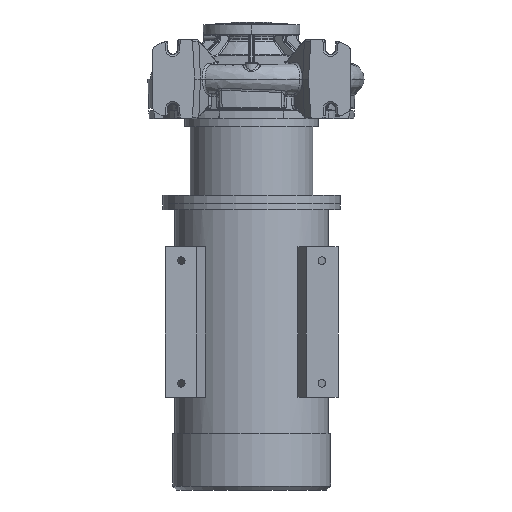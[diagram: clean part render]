
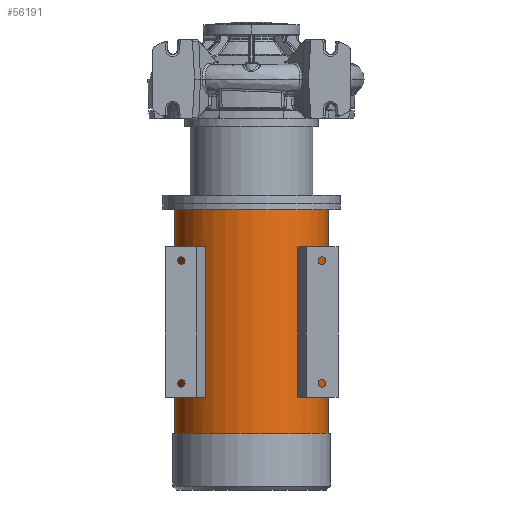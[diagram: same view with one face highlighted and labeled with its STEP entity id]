
A CAD part, front view. The second image highlights one B-rep face of the part: STEP entity #56191.
In plain terms, the highlighted cylindrical face has radius 195 mm (diameter 390 mm), a partial arc.
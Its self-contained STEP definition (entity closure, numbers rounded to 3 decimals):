
#1046 = VECTOR ( 'NONE', #79538, 1000. ) ;
#1199 = CIRCLE ( 'NONE', #43387, 195. ) ;
#2497 = CARTESIAN_POINT ( 'NONE',  ( -117.445, -155.665, -1040.8 ) ) ;
#3600 = CARTESIAN_POINT ( 'NONE',  ( -195., 0., -330.8 ) ) ;
#4566 = DIRECTION ( 'NONE',  ( 0., 0., -1. ) ) ;
#5418 = DIRECTION ( 'NONE',  ( -1., 0., 0. ) ) ;
#5986 = LINE ( 'NONE', #60938, #107345 ) ;
#7484 = CARTESIAN_POINT ( 'NONE',  ( 0., 0., -330.8 ) ) ;
#7755 = EDGE_CURVE ( 'NONE', #65892, #64055, #1199, .T. ) ;
#8278 = EDGE_CURVE ( 'NONE', #41030, #108985, #35257, .T. ) ;
#9463 = CARTESIAN_POINT ( 'NONE',  ( 0., 0., -805.3 ) ) ;
#14122 = ORIENTED_EDGE ( 'NONE', *, *, #18589, .F. ) ;
#14168 = VERTEX_POINT ( 'NONE', #34604 ) ;
#14631 = VERTEX_POINT ( 'NONE', #94495 ) ;
#15960 = VERTEX_POINT ( 'NONE', #73765 ) ;
#16619 = VERTEX_POINT ( 'NONE', #83887 ) ;
#17181 = ORIENTED_EDGE ( 'NONE', *, *, #20589, .T. ) ;
#18589 = EDGE_CURVE ( 'NONE', #14168, #14631, #25116, .T. ) ;
#19361 = DIRECTION ( 'NONE',  ( 0., 0., 1. ) ) ;
#20048 = AXIS2_PLACEMENT_3D ( 'NONE', #46166, #27829, #63833 ) ;
#20589 = EDGE_CURVE ( 'NONE', #64055, #14631, #5986, .T. ) ;
#20860 = CARTESIAN_POINT ( 'NONE',  ( 117.445, -155.665, -1040.8 ) ) ;
#21091 = ORIENTED_EDGE ( 'NONE', *, *, #40343, .T. ) ;
#24291 = CARTESIAN_POINT ( 'NONE',  ( 0., 0., -425.3 ) ) ;
#24720 = AXIS2_PLACEMENT_3D ( 'NONE', #9463, #79936, #27417 ) ;
#25116 = CIRCLE ( 'NONE', #88551, 195. ) ;
#27012 = CIRCLE ( 'NONE', #50921, 195. ) ;
#27417 = DIRECTION ( 'NONE',  ( -1., 0., 0. ) ) ;
#27829 = DIRECTION ( 'NONE',  ( 0., 0., -1. ) ) ;
#29805 = DIRECTION ( 'NONE',  ( 0., 0., -1. ) ) ;
#32016 = FACE_BOUND ( 'NONE', #96318, .T. ) ;
#32133 = CARTESIAN_POINT ( 'NONE',  ( 0., 0., -1040.8 ) ) ;
#32301 = AXIS2_PLACEMENT_3D ( 'NONE', #38608, #29805, #99524 ) ;
#33873 = CARTESIAN_POINT ( 'NONE',  ( 131.492, -143.996, -805.3 ) ) ;
#34596 = DIRECTION ( 'NONE',  ( 0., 0., -1. ) ) ;
#34604 = CARTESIAN_POINT ( 'NONE',  ( 195., 0., -896.8 ) ) ;
#35257 = LINE ( 'NONE', #61547, #1046 ) ;
#35402 = EDGE_CURVE ( 'NONE', #88926, #49295, #27012, .T. ) ;
#38608 = CARTESIAN_POINT ( 'NONE',  ( 0., 0., -805.3 ) ) ;
#40275 = FACE_OUTER_BOUND ( 'NONE', #63240, .T. ) ;
#40343 = EDGE_CURVE ( 'NONE', #45888, #108985, #62020, .T. ) ;
#40435 = DIRECTION ( 'NONE',  ( 0., 0., -1. ) ) ;
#41030 = VERTEX_POINT ( 'NONE', #86384 ) ;
#42894 = DIRECTION ( 'NONE',  ( 0., 0., -1. ) ) ;
#43387 = AXIS2_PLACEMENT_3D ( 'NONE', #7484, #34596, #113432 ) ;
#44671 = ORIENTED_EDGE ( 'NONE', *, *, #107089, .T. ) ;
#45195 = EDGE_CURVE ( 'NONE', #45888, #16619, #103681, .T. ) ;
#45888 = VERTEX_POINT ( 'NONE', #101455 ) ;
#46166 = CARTESIAN_POINT ( 'NONE',  ( 0., 0., -425.3 ) ) ;
#47064 = CYLINDRICAL_SURFACE ( 'NONE', #96044, 195. ) ;
#47702 = CARTESIAN_POINT ( 'NONE',  ( 117.445, -155.665, -425.3 ) ) ;
#49295 = VERTEX_POINT ( 'NONE', #105704 ) ;
#50921 = AXIS2_PLACEMENT_3D ( 'NONE', #24291, #69118, #67957 ) ;
#51641 = ORIENTED_EDGE ( 'NONE', *, *, #99382, .T. ) ;
#55106 = ORIENTED_EDGE ( 'NONE', *, *, #7755, .T. ) ;
#55322 = EDGE_CURVE ( 'NONE', #15960, #108048, #69315, .T. ) ;
#56191 = ADVANCED_FACE ( 'NONE', ( #40275, #32016, #62176 ), #47064, .T. ) ;
#56394 = ORIENTED_EDGE ( 'NONE', *, *, #45195, .F. ) ;
#57843 = LINE ( 'NONE', #80392, #93461 ) ;
#58369 = DIRECTION ( 'NONE',  ( 0., 0., -1. ) ) ;
#60938 = CARTESIAN_POINT ( 'NONE',  ( -195., 0., -1040.8 ) ) ;
#61547 = CARTESIAN_POINT ( 'NONE',  ( -131.492, -143.996, -1040.8 ) ) ;
#62020 = CIRCLE ( 'NONE', #32301, 195. ) ;
#62176 = FACE_BOUND ( 'NONE', #101825, .T. ) ;
#62416 = CARTESIAN_POINT ( 'NONE',  ( 195., 0., -330.8 ) ) ;
#63240 = EDGE_LOOP ( 'NONE', ( #66618, #55106, #17181, #14122 ) ) ;
#63644 = LINE ( 'NONE', #20860, #102007 ) ;
#63833 = DIRECTION ( 'NONE',  ( 1., 0., 0. ) ) ;
#64055 = VERTEX_POINT ( 'NONE', #3600 ) ;
#65892 = VERTEX_POINT ( 'NONE', #62416 ) ;
#66618 = ORIENTED_EDGE ( 'NONE', *, *, #85192, .F. ) ;
#67008 = DIRECTION ( 'NONE',  ( 0., 0., -1. ) ) ;
#67957 = DIRECTION ( 'NONE',  ( -1., 0., 0. ) ) ;
#69118 = DIRECTION ( 'NONE',  ( 0., 0., 1. ) ) ;
#69315 = CIRCLE ( 'NONE', #24720, 195. ) ;
#73534 = VECTOR ( 'NONE', #40435, 1000. ) ;
#73765 = CARTESIAN_POINT ( 'NONE',  ( 117.445, -155.665, -805.3 ) ) ;
#76510 = CARTESIAN_POINT ( 'NONE',  ( -131.492, -143.996, -805.3 ) ) ;
#78732 = ORIENTED_EDGE ( 'NONE', *, *, #112771, .F. ) ;
#79538 = DIRECTION ( 'NONE',  ( 0., 0., -1. ) ) ;
#79936 = DIRECTION ( 'NONE',  ( 0., 0., 1. ) ) ;
#80392 = CARTESIAN_POINT ( 'NONE',  ( 195., 0., -1040.8 ) ) ;
#80395 = VECTOR ( 'NONE', #89419, 1000. ) ;
#81223 = ORIENTED_EDGE ( 'NONE', *, *, #35402, .T. ) ;
#83887 = CARTESIAN_POINT ( 'NONE',  ( -117.445, -155.665, -425.3 ) ) ;
#84407 = CARTESIAN_POINT ( 'NONE',  ( 0., 0., -896.8 ) ) ;
#84461 = LINE ( 'NONE', #110097, #73534 ) ;
#85192 = EDGE_CURVE ( 'NONE', #65892, #14168, #57843, .T. ) ;
#86384 = CARTESIAN_POINT ( 'NONE',  ( -131.492, -143.996, -425.3 ) ) ;
#88551 = AXIS2_PLACEMENT_3D ( 'NONE', #84407, #58369, #103543 ) ;
#88926 = VERTEX_POINT ( 'NONE', #47702 ) ;
#89419 = DIRECTION ( 'NONE',  ( 0., 0., 1. ) ) ;
#93461 = VECTOR ( 'NONE', #4566, 1000. ) ;
#94495 = CARTESIAN_POINT ( 'NONE',  ( -195., 0., -896.8 ) ) ;
#96044 = AXIS2_PLACEMENT_3D ( 'NONE', #32133, #67008, #5418 ) ;
#96318 = EDGE_LOOP ( 'NONE', ( #110257, #51641, #81223, #44671 ) ) ;
#99382 = EDGE_CURVE ( 'NONE', #15960, #88926, #63644, .T. ) ;
#99524 = DIRECTION ( 'NONE',  ( 1., 0., 0. ) ) ;
#100151 = ORIENTED_EDGE ( 'NONE', *, *, #8278, .F. ) ;
#101455 = CARTESIAN_POINT ( 'NONE',  ( -117.445, -155.665, -805.3 ) ) ;
#101825 = EDGE_LOOP ( 'NONE', ( #56394, #21091, #100151, #78732 ) ) ;
#102007 = VECTOR ( 'NONE', #19361, 1000. ) ;
#103215 = CIRCLE ( 'NONE', #20048, 195. ) ;
#103543 = DIRECTION ( 'NONE',  ( -1., 0., 0. ) ) ;
#103681 = LINE ( 'NONE', #2497, #80395 ) ;
#105704 = CARTESIAN_POINT ( 'NONE',  ( 131.492, -143.996, -425.3 ) ) ;
#107089 = EDGE_CURVE ( 'NONE', #49295, #108048, #84461, .T. ) ;
#107345 = VECTOR ( 'NONE', #42894, 1000. ) ;
#108048 = VERTEX_POINT ( 'NONE', #33873 ) ;
#108985 = VERTEX_POINT ( 'NONE', #76510 ) ;
#110097 = CARTESIAN_POINT ( 'NONE',  ( 131.492, -143.996, -1040.8 ) ) ;
#110257 = ORIENTED_EDGE ( 'NONE', *, *, #55322, .F. ) ;
#112771 = EDGE_CURVE ( 'NONE', #16619, #41030, #103215, .T. ) ;
#113432 = DIRECTION ( 'NONE',  ( -1., 0., 0. ) ) ;
